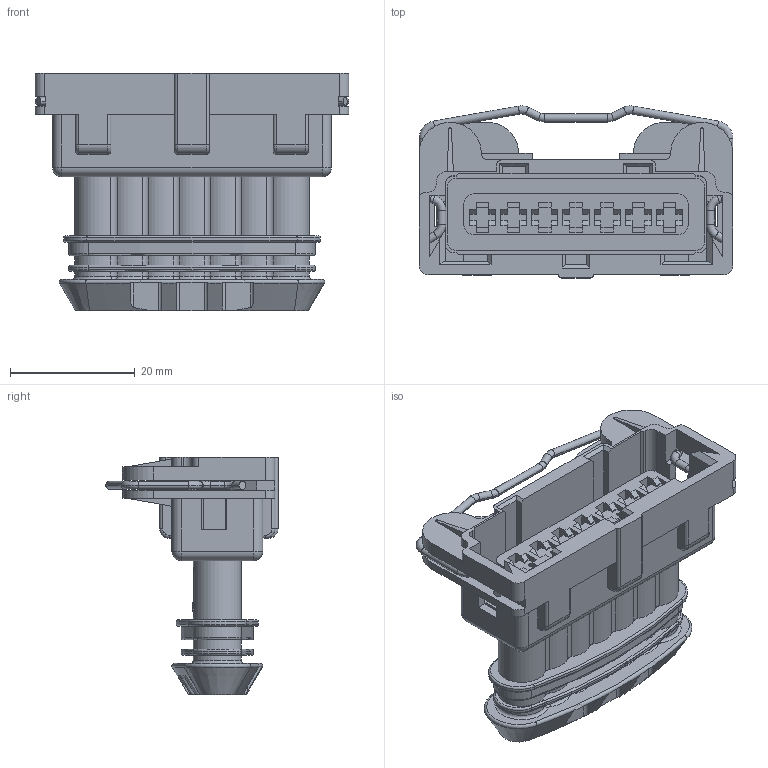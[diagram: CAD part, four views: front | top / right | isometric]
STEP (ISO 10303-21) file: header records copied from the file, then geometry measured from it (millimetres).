
FILE_DESCRIPTION((''),'2;1');
FILE_NAME('C-282194-1','2014-07-29T',('workeradm'),('Tyco Electronics Ltd.'),'PRO/ENGINEER BY PARAMETRIC TECHNOLOGY CORPORATION, 2013050','PRO/ENGINEER BY PARAMETRIC TECHNOLOGY CORPORATION, 2013050','');
FILE_SCHEMA(('AUTOMOTIVE_DESIGN { 1 0 10303 214 1 1 1 1 }'));
Length unit declared in the file: millimetre
Products named in the file (1): C-282194-1
Bounding box: 50.4 x 27.65 x 38.1 mm (x, y, z)
Volume: 13978.8 mm3; surface area: 11074.3 mm2
Topology: 1 solids, 1 shells, 772 faces, 2108 edges, 1348 vertices
Faces by surface type: plane 419, cylinder 254, torus 77, bspline 11, cone 7, sphere 4
Entity records: 31743 total; most frequent: CARTESIAN_POINT 5344, ORIENTED_EDGE 4216, DIRECTION 4201, PRESENTATION_STYLE_ASSIGNMENT 2110, STYLED_ITEM 2110, CURVE_STYLE 2108, EDGE_CURVE 2108, AXIS2_PLACEMENT_3D 1422
